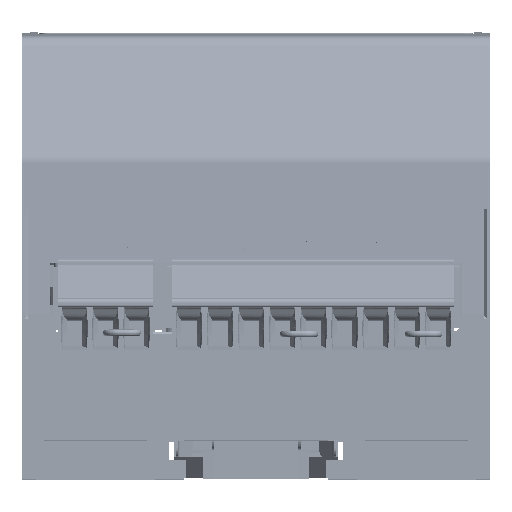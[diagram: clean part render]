
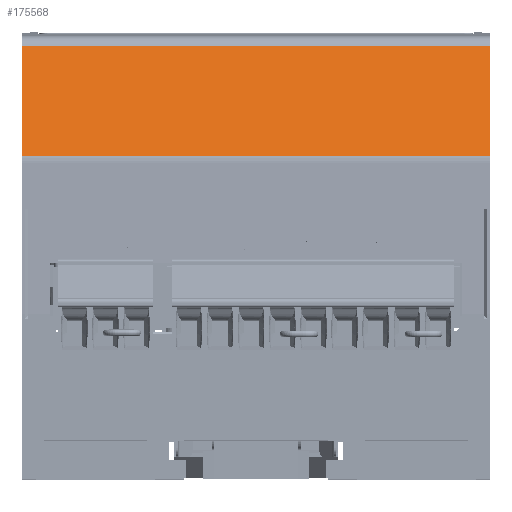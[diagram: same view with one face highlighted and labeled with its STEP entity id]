
A CAD part, top view. The second image highlights one B-rep face of the part: STEP entity #175568.
In plain terms, the highlighted planar face has unit normal (0, 0.391, 0.92) as drawn and (-0.921, 0, -0.391) by its records, which use the part's own axes.
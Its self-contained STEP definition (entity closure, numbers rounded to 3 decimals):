
#49559 = VECTOR ( 'NONE', #280702, 1000. ) ;
#75146 = EDGE_LOOP ( 'NONE', ( #142265, #461866, #463614, #257878 ) ) ;
#80952 = DIRECTION ( 'NONE',  ( 0., 1., 0. ) ) ;
#83552 = VECTOR ( 'NONE', #388583, 1000. ) ;
#98120 = LINE ( 'NONE', #473895, #49559 ) ;
#103306 = EDGE_CURVE ( 'NONE', #384467, #363531, #296345, .T. ) ;
#119362 = EDGE_CURVE ( 'NONE', #492421, #363531, #347793, .T. ) ;
#131699 = DIRECTION ( 'NONE',  ( -0.391, 0., 0.921 ) ) ;
#141090 = VERTEX_POINT ( 'NONE', #470200 ) ;
#142265 = ORIENTED_EDGE ( 'NONE', *, *, #148902, .F. ) ;
#148902 = EDGE_CURVE ( 'NONE', #141090, #384467, #98120, .T. ) ;
#175568 = ADVANCED_FACE ( 'NONE', ( #268224 ), #337565, .T. ) ;
#186515 = LINE ( 'NONE', #195605, #83552 ) ;
#186814 = CARTESIAN_POINT ( 'NONE',  ( 22.613, 59.512, -0.794 ) ) ;
#188488 = DIRECTION ( 'NONE',  ( -0.921, 0., -0.391 ) ) ;
#195605 = CARTESIAN_POINT ( 'NONE',  ( 17.362, -7.965, 11.578 ) ) ;
#217071 = EDGE_CURVE ( 'NONE', #492421, #141090, #186515, .T. ) ;
#225703 = DIRECTION ( 'NONE',  ( -0.391, 0., 0.921 ) ) ;
#257878 = ORIENTED_EDGE ( 'NONE', *, *, #103306, .F. ) ;
#268224 = FACE_OUTER_BOUND ( 'NONE', #75146, .T. ) ;
#280434 = CARTESIAN_POINT ( 'NONE',  ( 22.613, 44.635, -0.794 ) ) ;
#280702 = DIRECTION ( 'NONE',  ( 0., 1., 0. ) ) ;
#290743 = CARTESIAN_POINT ( 'NONE',  ( 22.613, 44.635, -0.794 ) ) ;
#294756 = CARTESIAN_POINT ( 'NONE',  ( 17.362, 44.635, 11.578 ) ) ;
#296345 = LINE ( 'NONE', #290743, #423783 ) ;
#312824 = CARTESIAN_POINT ( 'NONE',  ( 17.362, 59.512, 11.578 ) ) ;
#337565 = PLANE ( 'NONE',  #406356 ) ;
#347793 = LINE ( 'NONE', #312824, #462923 ) ;
#363531 = VERTEX_POINT ( 'NONE', #294756 ) ;
#384467 = VERTEX_POINT ( 'NONE', #280434 ) ;
#388583 = DIRECTION ( 'NONE',  ( 0.391, 0., -0.921 ) ) ;
#406356 = AXIS2_PLACEMENT_3D ( 'NONE', #186814, #188488, #225703 ) ;
#423783 = VECTOR ( 'NONE', #131699, 1000. ) ;
#461866 = ORIENTED_EDGE ( 'NONE', *, *, #217071, .F. ) ;
#462923 = VECTOR ( 'NONE', #80952, 1000. ) ;
#463614 = ORIENTED_EDGE ( 'NONE', *, *, #119362, .T. ) ;
#470200 = CARTESIAN_POINT ( 'NONE',  ( 22.613, -7.965, -0.794 ) ) ;
#473895 = CARTESIAN_POINT ( 'NONE',  ( 22.613, 14.585, -0.794 ) ) ;
#483957 = CARTESIAN_POINT ( 'NONE',  ( 17.362, -7.965, 11.578 ) ) ;
#492421 = VERTEX_POINT ( 'NONE', #483957 ) ;
